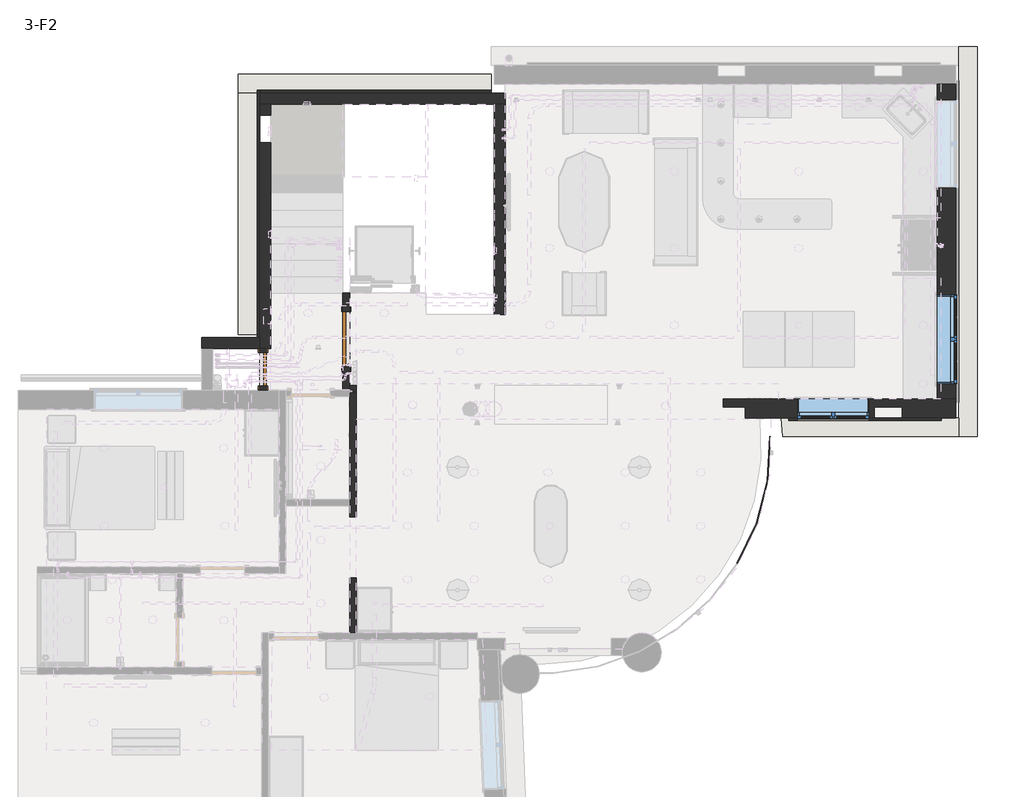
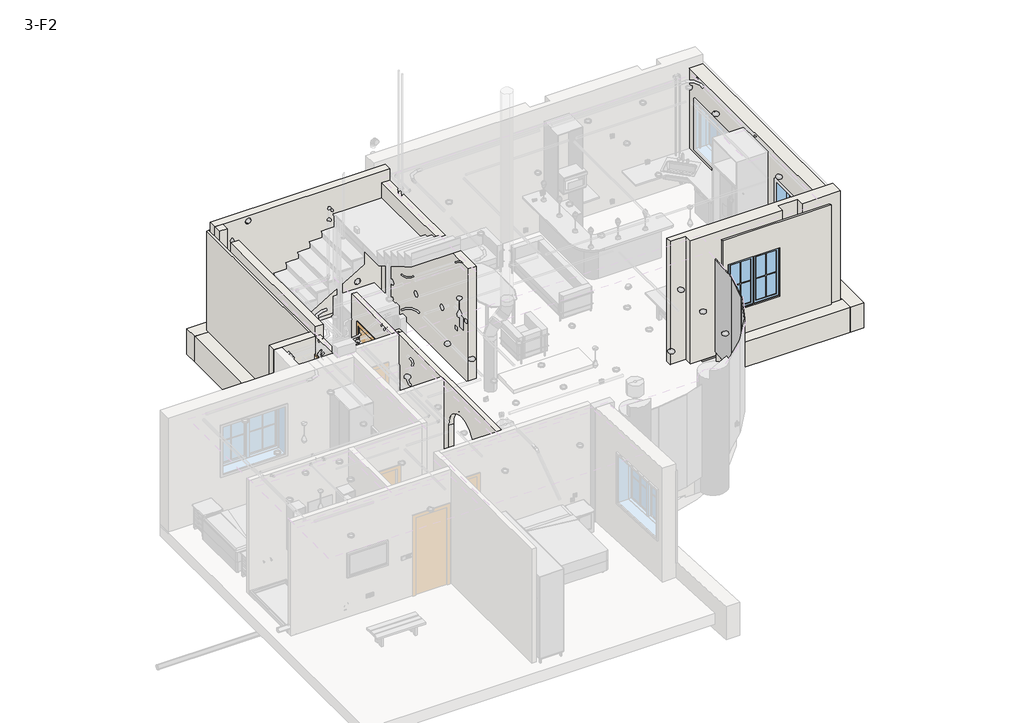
# One storey, part 2 of 12: 19 walls, 3 plates, 2 doors, 2 windows.
"""IFC4 building model written with IfcOpenShell, lengths in millimetres."""

from ifc_helpers import new_model, si_unit, point, frame, frame_2d, origin, place, context, project, spatial, polyline, circle_curve, trimmed, segment, composite_curve, outline, extrude, faceted_brep, transform, mapped, element, save
from ifc_brep_helpers import plane_surface, revolved_surface, advanced_brep
from components import m_door_double_flush_panel_double_acting_1000_x_2400mm_1c2e4d77, m_single_flush_600x160mm_2bf126cd, system_panel_glazed_b81a04c8, system_panel_glazed_f5efb3f4, m_window_casement_double_1300_x_1300mm_cdc21af0, m_window_casement_double_1600_x_1300mm_8a1cf402

model = new_model("IFC4")

# Units and contexts
model_context = context("Model", 3, world=origin())
ifc_project = project(units=[si_unit("LENGTHUNIT", "METRE", prefix="MILLI")], contexts=[model_context])

# Site, building, storey
site = spatial("IfcSite", under=ifc_project)
building = spatial("IfcBuilding", under=site)
storey = spatial("IfcBuildingStorey", under=building, Name="3-F2", Elevation=6550.0)

# Doors
placement = place(None, origin())
m_door_double_flush_panel_double_acting_1000_x_2400mm_shape = m_door_double_flush_panel_double_acting_1000_x_2400mm_1c2e4d77(model_context)
element("IfcDoor", 1, ObjectType="M_Door-Double-Flush_Panel-Double-Acting : 1000 x 2400mm", at=placement, inside=storey, context=model_context, shape_type="MappedRepresentation", body=[
    mapped(m_door_double_flush_panel_double_acting_1000_x_2400mm_shape, transform((-3497.4765921, 4249.4560655, 6600.0), x_axis=(0.0, -1.0, 0.0), y_axis=(1.0, 0.0, 0.0), z_axis=(0.0, 0.0, 1.0))),
])
m_single_flush_600x160mm_shape = m_single_flush_600x160mm_2bf126cd(model_context)
element("IfcDoor", 2, ObjectType="M_Single-Flush : 600x160mm", at=placement, inside=storey, context=model_context, shape_type="MappedRepresentation", body=[
    mapped(m_single_flush_600x160mm_shape, transform((-4997.4765921, 3709.4560655, 7500.0), x_axis=(0.0, -1.0, 0.0), y_axis=(1.0, 0.0, 0.0), z_axis=(0.0, 0.0, 1.0))),
])

# Plates
system_panel_glazed_shape = system_panel_glazed_b81a04c8(model_context)
element("IfcPlate", 3, ObjectType="System Panel : Glazed", at=placement, inside=storey, context=model_context, shape_type="MappedRepresentation", body=[
    mapped(system_panel_glazed_shape, transform((4124.3887755, 2095.1912305, 6980.0), x_axis=(-0.05898021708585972, -0.9982591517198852, 0.0), y_axis=(0.9982591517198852, -0.05898021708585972, 0.0), z_axis=(0.0, 0.0, 1.0))),
])
system_panel_glazed_2_shape = system_panel_glazed_f5efb3f4(model_context)
element("IfcPlate", 4, ObjectType="System Panel : Glazed", at=placement, inside=storey, context=model_context, shape_type="MappedRepresentation", body=[
    mapped(system_panel_glazed_2_shape, transform((4000.2906443, 1308.720246, 6980.0), x_axis=(-0.251265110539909, -0.9679183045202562, 0.0), y_axis=(0.9679183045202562, -0.251265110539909, 0.0), z_axis=(0.0, 0.0, 1.0))),
])
element("IfcPlate", 5, ObjectType="System Panel : Glazed", at=placement, inside=storey, context=model_context, shape_type="MappedRepresentation", body=[
    mapped(system_panel_glazed_2_shape, transform((3726.1731795, 561.1932779, 6980.0), x_axis=(-0.43402855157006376, -0.9008991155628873, 0.0), y_axis=(0.9008991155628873, -0.43402855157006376, 0.0), z_axis=(0.0, 0.0, 1.0))),
])

# Walls
element("IfcWall", 6, ObjectType="34cm", at=placement, inside=storey, context=model_context, shape_type="Brep", body=[
    faceted_brep([(7512.5234079, 3170.7214801, 6550.0), (7172.5234079, 3170.7214801, 6550.0), (3312.3848417, 3170.7214801, 6550.0), (3312.3848417, 3170.7214801, 9900.0), (7512.5234079, 3170.7214801, 9900.0), (7512.5234079, 3170.7214801, 9650.0), (4619.7734079, 3170.7214801, 7670.0), (4619.7734079, 3170.7214801, 7730.0), (4559.7734079, 3170.7214801, 7730.0), (4559.7734079, 3170.7214801, 7670.0), (4519.7734079, 3170.7214801, 7670.0), (4519.7734079, 3170.7214801, 7730.0), (4459.7734079, 3170.7214801, 7730.0), (4459.7734079, 3170.7214801, 7670.0), (4202.5234079, 3170.7214801, 7670.0), (4202.5234079, 3170.7214801, 7730.0), (4142.5234079, 3170.7214801, 7730.0), (4142.5234079, 3170.7214801, 7670.0), (4102.5234079, 3170.7214801, 7670.0), (4102.5234079, 3170.7214801, 7730.0), (4042.5234079, 3170.7214801, 7730.0), (4042.5234079, 3170.7214801, 7670.0), (4012.5234079, 3170.7214801, 7670.0), (4012.5234079, 3170.7214801, 7730.0), (3952.5234079, 3170.7214801, 7730.0), (3952.5234079, 3170.7214801, 7670.0), (3912.5234079, 3170.7214801, 7670.0), (3912.5234079, 3170.7214801, 7730.0), (3852.5234079, 3170.7214801, 7730.0), (3852.5234079, 3170.7214801, 7670.0), (3812.5234079, 3170.7214801, 7670.0), (3812.5234079, 3170.7214801, 7730.0), (3752.5234079, 3170.7214801, 7730.0), (3752.5234079, 3170.7214801, 7670.0), (4082.5234079, 3170.7214801, 6970.0), (4082.5234079, 3170.7214801, 7030.0), (4022.5234079, 3170.7214801, 7030.0), (4022.5234079, 3170.7214801, 6970.0), (4648.0158093, 3170.7214801, 8960.0), (4648.0158093, 3170.7214801, 7660.0), (5948.0158093, 3170.7214801, 7660.0), (5948.0158093, 3170.7214801, 8960.0), (7512.5234079, 2830.7214801, 6550.0), (7512.5234079, 2830.7214801, 9900.0), (6542.5234079, 2830.7214801, 9900.0), (6542.5234079, 2830.7214801, 6550.0), (6042.5234079, 2830.7214801, 6550.0), (6042.5234079, 2830.7214801, 9900.0), (3712.5234079, 2830.7214801, 9900.0), (3712.5234079, 2830.7214801, 6550.0), (4648.0158093, 2830.7214801, 7660.0), (4648.0158093, 2830.7214801, 8960.0), (5948.0158093, 2830.7214801, 8960.0), (5948.0158093, 2830.7214801, 7660.0), (6542.5234079, 3030.6486583, 6550.0), (6042.5234079, 3030.6486583, 6550.0), (3712.5234079, 3030.6486583, 6550.0), (3312.3848417, 3030.6486583, 6550.0), (3312.3848417, 3030.6486583, 9900.0), (3712.5234079, 3030.6486583, 9900.0), (6042.5234079, 3030.6486583, 9900.0), (6542.5234079, 3030.6486583, 9900.0), (4619.7734079, 3120.7214801, 7670.0), (4559.7734079, 3120.7214801, 7670.0), (4559.7734079, 3120.7214801, 7730.0), (4619.7734079, 3120.7214801, 7730.0), (4519.7734079, 3120.7214801, 7670.0), (4459.7734079, 3120.7214801, 7670.0), (4459.7734079, 3120.7214801, 7730.0), (4519.7734079, 3120.7214801, 7730.0), (4202.5234079, 3120.7214801, 7670.0), (4142.5234079, 3120.7214801, 7670.0), (4142.5234079, 3120.7214801, 7730.0), (4202.5234079, 3120.7214801, 7730.0), (4102.5234079, 3120.7214801, 7670.0), (4042.5234079, 3120.7214801, 7670.0), (4042.5234079, 3120.7214801, 7730.0), (4102.5234079, 3120.7214801, 7730.0), (4012.5234079, 3120.7214801, 7670.0), (3952.5234079, 3120.7214801, 7670.0), (3952.5234079, 3120.7214801, 7730.0), (4012.5234079, 3120.7214801, 7730.0), (3912.5234079, 3120.7214801, 7670.0), (3852.5234079, 3120.7214801, 7670.0), (3852.5234079, 3120.7214801, 7730.0), (3912.5234079, 3120.7214801, 7730.0), (3812.5234079, 3120.7214801, 7670.0), (3752.5234079, 3120.7214801, 7670.0), (3752.5234079, 3120.7214801, 7730.0), (3812.5234079, 3120.7214801, 7730.0), (4082.5234079, 3120.7214801, 6970.0), (4022.5234079, 3120.7214801, 6970.0), (4022.5234079, 3120.7214801, 7030.0), (4082.5234079, 3120.7214801, 7030.0)], [[[0, 1, 2, 3, 4, 5], [6, 7, 8, 9], [10, 11, 12, 13], [14, 15, 16, 17], [18, 19, 20, 21], [22, 23, 24, 25], [26, 27, 28, 29], [30, 31, 32, 33], [34, 35, 36, 37], [38, 39, 40, 41]], [[42, 43, 44, 45]], [[46, 47, 48, 49], [50, 51, 52, 53]], [[2, 1, 0, 42, 45, 54, 55, 46, 49, 56, 57]], [[3, 2, 57, 58]], [[4, 3, 58, 59, 48, 47, 60, 61, 44, 43]], [[62, 63, 64, 65]], [[62, 65, 7, 6]], [[65, 64, 8, 7]], [[64, 63, 9, 8]], [[63, 62, 6, 9]], [[66, 67, 68, 69]], [[66, 69, 11, 10]], [[69, 68, 12, 11]], [[68, 67, 13, 12]], [[67, 66, 10, 13]], [[70, 71, 72, 73]], [[70, 73, 15, 14]], [[73, 72, 16, 15]], [[72, 71, 17, 16]], [[71, 70, 14, 17]], [[74, 75, 76, 77]], [[74, 77, 19, 18]], [[77, 76, 20, 19]], [[76, 75, 21, 20]], [[75, 74, 18, 21]], [[78, 79, 80, 81]], [[78, 81, 23, 22]], [[81, 80, 24, 23]], [[80, 79, 25, 24]], [[79, 78, 22, 25]], [[82, 83, 84, 85]], [[82, 85, 27, 26]], [[85, 84, 28, 27]], [[84, 83, 29, 28]], [[83, 82, 26, 29]], [[86, 87, 88, 89]], [[86, 89, 31, 30]], [[89, 88, 32, 31]], [[88, 87, 33, 32]], [[87, 86, 30, 33]], [[90, 91, 92, 93]], [[90, 93, 35, 34]], [[93, 92, 36, 35]], [[92, 91, 37, 36]], [[91, 90, 34, 37]], [[0, 5, 4, 43, 42]], [[38, 51, 50, 39]], [[39, 50, 53, 40]], [[40, 53, 52, 41]], [[51, 38, 41, 52]], [[61, 54, 45, 44]], [[55, 60, 47, 46]], [[60, 55, 54, 61]], [[59, 56, 49, 48]], [[56, 59, 58, 57]]]),
])
element("IfcWall", 7, ObjectType="34cm", at=placement, inside=storey, context=model_context, shape_type="SweptSolid", body=[
    extrude(outline(polyline([(8861.6620874, 6550.0), (3170.7214801, 6550.0), (3170.7214801, 9650.0), (8861.6620874, 9650.0), (8861.6620874, 6550.0)]), holes=[polyline([(6981.6620874, 8950.0), (6981.6620874, 7660.0), (8581.6620874, 7660.0), (8581.6620874, 8950.0), (6981.6620874, 8950.0)]), polyline([(3450.7214801, 8950.0), (3450.7214801, 7660.0), (5050.7214801, 7660.0), (5050.7214801, 8950.0), (3450.7214801, 8950.0)])]), frame((7172.5234079, 0.0, 0.0), z_axis=(1.0, 0.0, 0.0), x_axis=(0.0, 1.0, 0.0)), (0.0, 0.0, 1.0), 340.0),
])
element("IfcWall", 8, ObjectType="Generic - 200mm", at=placement, inside=storey, context=model_context, shape_type="AdvancedBrep", body=[
    advanced_brep(
    [(-627.4765921, 8701.6620874, 6550.0), (-5057.4765921, 8701.6620874, 6550.0), (-5057.4765921, 8701.6620874, 9900.0), (-627.4765921, 8701.6620874, 9900.0), (-5057.4765921, 8501.6620874, 6550.0), (-4857.4765921, 8501.6620874, 6550.0), (-827.4765921, 8501.6620874, 6550.0), (-627.4765921, 8501.6620874, 6550.0), (-627.4765921, 8501.6620874, 9600.0), (-627.4765921, 8501.6620874, 9900.0), (-4857.4765921, 8501.6620874, 9900.0), (-5057.4765921, 8501.6620874, 9900.0), (-4152.4765921, 8501.6620874, 9760.5263158), (-4262.4765921, 8501.6620874, 9760.5263158), (-1387.4765921, 8501.6620874, 7170.4545455), (-1497.4765921, 8501.6620874, 7170.4545455), (-4262.4765921, 8539.7620874, 9760.5263158), (-4152.4765921, 8539.7620874, 9760.5263158), (-1497.4765921, 8539.7620874, 7170.4545455), (-1387.4765921, 8539.7620874, 7170.4545455)],
    [
        (0, 1),
        (1, 2),
        (2, 3),
        (3, 0),
        (4, 5),
        (5, 6),
        (6, 7),
        (7, 8),
        (8, 9),
        (9, 10),
        (10, 11),
        (11, 4),
        (12, 13, circle_curve(frame((-4207.4765921, 8501.6620874, 9760.5263158), z_axis=(0.0, 1.0, 0.0), x_axis=(1.0, 0.0, 0.0)), 55.0)),
        (13, 12, circle_curve(frame((-4207.4765921, 8501.6620874, 9760.5263158), z_axis=(0.0, 1.0, 0.0), x_axis=(1.0, 0.0, 0.0)), 55.0)),
        (14, 15, circle_curve(frame((-1442.4765921, 8501.6620874, 7170.4545455), z_axis=(0.0, 1.0, 0.0), x_axis=(1.0, 0.0, 0.0)), 55.0)),
        (15, 14, circle_curve(frame((-1442.4765921, 8501.6620874, 7170.4545455), z_axis=(0.0, 1.0, 0.0), x_axis=(1.0, 0.0, 0.0)), 55.0)),
        (0, 7),
        (4, 1),
        (2, 11),
        (9, 3),
        (16, 17, circle_curve(frame((-4207.4765921, 8539.7620874, 9760.5263158), z_axis=(0.0, -1.0, 0.0), x_axis=(1.0, 0.0, 0.0)), 55.0)),
        (17, 16, circle_curve(frame((-4207.4765921, 8539.7620874, 9760.5263158), z_axis=(0.0, -1.0, 0.0), x_axis=(1.0, 0.0, 0.0)), 55.0)),
        (16, 13),
        (12, 17),
        (18, 19, circle_curve(frame((-1442.4765921, 8539.7620874, 7170.4545455), z_axis=(0.0, -1.0, 0.0), x_axis=(1.0, 0.0, 0.0)), 55.0)),
        (19, 18, circle_curve(frame((-1442.4765921, 8539.7620874, 7170.4545455), z_axis=(0.0, -1.0, 0.0), x_axis=(1.0, 0.0, 0.0)), 55.0)),
        (18, 15),
        (14, 19),
    ],
    [
        plane_surface(frame((-262.1225101, 8701.6620874, 6550.0), z_axis=(0.0, 1.0, 0.0), x_axis=(-1.0, 0.0, 0.0))),
        plane_surface(frame((-262.1225101, 8501.6620874, 6550.0), z_axis=(0.0, -1.0, 0.0), x_axis=(1.0, 0.0, 0.0))),
        plane_surface(frame((-727.4765921, 8701.6620874, 6550.0), z_axis=(0.0, 0.0, -1.0), x_axis=(0.0, -1.0, 0.0))),
        plane_surface(frame((-4957.4765921, 8701.6620874, 9900.0), z_axis=(0.0, 0.0, 1.0), x_axis=(0.0, -1.0, 0.0))),
        plane_surface(frame((-5057.4765921, 8301.6620874, 6550.0), z_axis=(-1.0, 0.0, 0.0), x_axis=(0.0, -1.0, 0.0))),
        plane_surface(frame((-4152.4765921, 8539.7620874, 9760.5263158), z_axis=(0.0, -1.0, 0.0), x_axis=(0.0, 0.0, -1.0))),
        revolved_surface(polyline([(-4152.4765921, 8501.6620874, 9760.5263158), (-4152.4765921, 8539.7620874, 9760.5263158)]), (-4207.4765921, 8539.7620874, 9760.5263158), (0.0, -1.0, 0.0)),
        plane_surface(frame((-1387.4765921, 8539.7620874, 7170.4545455), z_axis=(0.0, -1.0, 0.0), x_axis=(0.0, 0.0, -1.0))),
        revolved_surface(polyline([(-1387.4765921, 8501.6620874, 7170.4545455), (-1387.4765921, 8539.7620874, 7170.4545455)]), (-1442.4765921, 8539.7620874, 7170.4545455), (0.0, -1.0, 0.0)),
        plane_surface(frame((-627.4765921, 8101.6620874, 6550.0), z_axis=(1.0, 0.0, 0.0), x_axis=(0.0, 1.0, 0.0))),
    ],
    [
        (0, [[1, 2, 3, 4]]),
        (1, [[5, 6, 7, 8, 9, 10, 11, 12], [13, 14], [15, 16]]),
        (2, [[-1, 17, -7, -6, -5, 18]]),
        (3, [[-3, 19, -11, -10, 20]]),
        (4, [[-2, -18, -12, -19]]),
        (5, [[21, 22]]),
        (6, [[-21, 23, -13, 24]]),
        (6, [[-22, -24, -14, -23]]),
        (7, [[25, 26]]),
        (8, [[-25, 27, -15, 28]]),
        (8, [[-26, -28, -16, -27]]),
        (9, [[-4, -20, -9, -8, -17]]),
    ],
),
])
element("IfcWall", 9, ObjectType="Generic - 200mm", at=placement, inside=storey, context=model_context, shape_type="SweptSolid", body=[
    extrude(outline(polyline([(-5057.4765921, 8301.6620874), (-5057.4765921, 8501.6620874), (-4857.4765921, 8501.6620874), (-4857.4765921, 8301.6620874), (-5057.4765921, 8301.6620874)])), frame((0.0, 0.0, 6550.0), z_axis=(0.0, 0.0, 1.0), x_axis=(1.0, 0.0, 0.0)), (0.0, 0.0, 1.0), 3350.0),
])
element("IfcWall", 10, ObjectType="Generic - 200mm", at=placement, inside=storey, context=model_context, shape_type="Brep", body=[
    faceted_brep([(-5057.4765921, 4284.4560655, 6550.0), (-6107.4765921, 4284.4560655, 6550.0), (-6107.4765921, 4284.4560655, 9650.0), (-5107.4765921, 4284.4560655, 9650.0), (-5057.4765921, 4284.4560655, 9650.0), (-5057.4765921, 4284.4560655, 6980.0), (-6107.4765921, 4084.4560655, 6550.0), (-5907.4765921, 4084.4560655, 6550.0), (-5057.4765921, 4084.4560655, 6550.0), (-5057.4765921, 4084.4560655, 9650.0), (-5907.4765921, 4084.4560655, 9650.0), (-6107.4765921, 4084.4560655, 9650.0)], [[[0, 1, 2, 3, 4, 5]], [[6, 7, 8, 9, 10, 11]], [[1, 0, 8, 7, 6]], [[1, 6, 11, 2]], [[4, 3, 2, 11, 10, 9]], [[8, 0, 5, 4, 9]]]),
])
element("IfcWall", 11, ObjectType="Generic - 200mm", at=placement, inside=storey, context=model_context, shape_type="Brep", body=[
    faceted_brep([(-827.4765921, 8501.6620874, 6550.0), (-827.4765921, 4701.6620874, 6550.0), (-827.4765921, 4701.6620874, 9600.0), (-827.4765921, 8501.6620874, 9600.0), (-827.4765921, 5254.4560655, 7670.0), (-827.4765921, 5254.4560655, 7730.0), (-827.4765921, 5194.4560655, 7730.0), (-827.4765921, 5194.4560655, 7670.0), (-627.4765921, 4701.6620874, 6550.0), (-627.4765921, 8501.6620874, 6550.0), (-627.4765921, 8501.6620874, 9600.0), (-627.4765921, 4701.6620874, 9600.0), (-627.4765921, 6636.6620874, 7720.0), (-627.4765921, 6636.6620874, 7780.0), (-627.4765921, 6696.6620874, 7780.0), (-627.4765921, 6696.6620874, 7720.0), (-627.4765921, 6636.6620874, 6970.0), (-627.4765921, 6636.6620874, 7030.0), (-627.4765921, 6696.6620874, 7030.0), (-627.4765921, 6696.6620874, 6970.0), (-627.4765921, 6542.6620874, 6970.0), (-627.4765921, 6542.6620874, 7030.0), (-627.4765921, 6602.6620874, 7030.0), (-627.4765921, 6602.6620874, 6970.0), (-627.4765921, 5054.4560655, 7670.0), (-627.4765921, 5054.4560655, 7730.0), (-627.4765921, 5114.4560655, 7730.0), (-627.4765921, 5114.4560655, 7670.0), (-627.4765921, 5184.4560655, 7670.0), (-627.4765921, 5184.4560655, 7730.0), (-627.4765921, 5244.4560655, 7730.0), (-627.4765921, 5244.4560655, 7670.0), (-627.4765921, 5268.1878228, 7670.0), (-627.4765921, 5268.1878228, 7730.0), (-627.4765921, 5328.1878228, 7730.0), (-627.4765921, 5328.1878228, 7670.0), (-677.4765921, 6636.6620874, 7720.0), (-677.4765921, 6696.6620874, 7720.0), (-677.4765921, 6696.6620874, 7780.0), (-677.4765921, 6636.6620874, 7780.0), (-677.4765921, 6636.6620874, 6970.0), (-677.4765921, 6696.6620874, 6970.0), (-677.4765921, 6696.6620874, 7030.0), (-677.4765921, 6636.6620874, 7030.0), (-677.4765921, 6542.6620874, 6970.0), (-677.4765921, 6602.6620874, 6970.0), (-677.4765921, 6602.6620874, 7030.0), (-677.4765921, 6542.6620874, 7030.0), (-677.4765921, 5054.4560655, 7670.0), (-677.4765921, 5114.4560655, 7670.0), (-677.4765921, 5114.4560655, 7730.0), (-677.4765921, 5054.4560655, 7730.0), (-677.4765921, 5184.4560655, 7670.0), (-677.4765921, 5244.4560655, 7670.0), (-677.4765921, 5244.4560655, 7730.0), (-677.4765921, 5184.4560655, 7730.0), (-777.4765921, 5254.4560655, 7670.0), (-777.4765921, 5194.4560655, 7670.0), (-777.4765921, 5194.4560655, 7730.0), (-777.4765921, 5254.4560655, 7730.0), (-677.4765921, 5268.1878228, 7670.0), (-677.4765921, 5328.1878228, 7670.0), (-677.4765921, 5328.1878228, 7730.0), (-677.4765921, 5268.1878228, 7730.0)], [[[0, 1, 2, 3], [4, 5, 6, 7]], [[8, 9, 10, 11], [12, 13, 14, 15], [16, 17, 18, 19], [20, 21, 22, 23], [24, 25, 26, 27], [28, 29, 30, 31], [32, 33, 34, 35]], [[1, 0, 9, 8]], [[2, 1, 8, 11]], [[3, 2, 11, 10]], [[36, 37, 38, 39]], [[36, 39, 13, 12]], [[39, 38, 14, 13]], [[38, 37, 15, 14]], [[37, 36, 12, 15]], [[40, 41, 42, 43]], [[40, 43, 17, 16]], [[43, 42, 18, 17]], [[42, 41, 19, 18]], [[41, 40, 16, 19]], [[44, 45, 46, 47]], [[44, 47, 21, 20]], [[47, 46, 22, 21]], [[46, 45, 23, 22]], [[45, 44, 20, 23]], [[48, 49, 50, 51]], [[48, 51, 25, 24]], [[51, 50, 26, 25]], [[50, 49, 27, 26]], [[49, 48, 24, 27]], [[52, 53, 54, 55]], [[52, 55, 29, 28]], [[55, 54, 30, 29]], [[54, 53, 31, 30]], [[53, 52, 28, 31]], [[56, 57, 58, 59]], [[56, 59, 5, 4]], [[59, 58, 6, 5]], [[58, 57, 7, 6]], [[57, 56, 4, 7]], [[60, 61, 62, 63]], [[60, 63, 33, 32]], [[63, 62, 34, 33]], [[62, 61, 35, 34]], [[61, 60, 32, 35]], [[0, 3, 10, 9]]]),
])
element("IfcWall", 12, ObjectType="Generic - 200mm", at=placement, inside=storey, context=model_context, shape_type="AdvancedBrep", body=[
    advanced_brep(
    [(-5057.4765921, 7801.6620874, 6550.0), (-5057.4765921, 4284.4560655, 6550.0), (-5057.4765921, 4084.4560655, 6550.0), (-5057.4765921, 4084.4560655, 9650.0), (-5057.4765921, 4084.4560655, 9900.0), (-5057.4765921, 7801.6620874, 9900.0), (-4857.4765921, 4084.4560655, 6550.0), (-4857.4765921, 7801.6620874, 6550.0), (-4857.4765921, 7801.6620874, 9900.0), (-4857.4765921, 4084.4560655, 9900.0), (-4857.4765921, 5254.4560655, 7670.0), (-4857.4765921, 5254.4560655, 7730.0), (-4857.4765921, 5314.4560655, 7730.0), (-4857.4765921, 5314.4560655, 7670.0), (-4857.4765921, 5009.4560655, 6970.0), (-4857.4765921, 5009.4560655, 7030.0), (-4857.4765921, 5069.4560655, 7030.0), (-4857.4765921, 5069.4560655, 6970.0), (-4857.4765921, 6201.0955313, 9055.2631579), (-4857.4765921, 6091.0955313, 9055.2631579), (-4907.4765921, 5254.4560655, 7670.0), (-4907.4765921, 5314.4560655, 7670.0), (-4907.4765921, 5314.4560655, 7730.0), (-4907.4765921, 5254.4560655, 7730.0), (-4907.4765921, 5009.4560655, 6970.0), (-4907.4765921, 5069.4560655, 6970.0), (-4907.4765921, 5069.4560655, 7030.0), (-4907.4765921, 5009.4560655, 7030.0), (-4895.5765921, 6091.0955313, 9055.2631579), (-4895.5765921, 6201.0955313, 9055.2631579)],
    [
        (0, 1),
        (1, 2),
        (2, 3),
        (3, 4),
        (4, 5),
        (5, 0),
        (6, 7),
        (7, 8),
        (8, 9),
        (9, 6),
        (10, 11),
        (11, 12),
        (12, 13),
        (13, 10),
        (14, 15),
        (15, 16),
        (16, 17),
        (17, 14),
        (18, 19, circle_curve(frame((-4857.4765921, 6146.0955313, 9055.2631579), z_axis=(-1.0, 0.0, 0.0), x_axis=(0.0, 1.0, 0.0)), 55.0)),
        (19, 18, circle_curve(frame((-4857.4765921, 6146.0955313, 9055.2631579), z_axis=(-1.0, 0.0, 0.0), x_axis=(0.0, 1.0, 0.0)), 55.0)),
        (0, 7),
        (6, 2),
        (4, 9),
        (8, 5),
        (20, 21),
        (21, 22),
        (22, 23),
        (23, 20),
        (23, 11),
        (10, 20),
        (22, 12),
        (21, 13),
        (24, 25),
        (25, 26),
        (26, 27),
        (27, 24),
        (27, 15),
        (14, 24),
        (26, 16),
        (25, 17),
        (28, 29, circle_curve(frame((-4895.5765921, 6146.0955313, 9055.2631579), z_axis=(1.0, 0.0, 0.0), x_axis=(0.0, 1.0, 0.0)), 55.0)),
        (29, 28, circle_curve(frame((-4895.5765921, 6146.0955313, 9055.2631579), z_axis=(1.0, 0.0, 0.0), x_axis=(0.0, 1.0, 0.0)), 55.0)),
        (28, 19),
        (18, 29),
    ],
    [
        plane_surface(frame((-5057.4765921, 8301.6620874, 6550.0), z_axis=(-1.0, 0.0, 0.0), x_axis=(0.0, -1.0, 0.0))),
        plane_surface(frame((-4857.4765921, 8301.6620874, 6550.0), z_axis=(1.0, 0.0, 0.0), x_axis=(0.0, 1.0, 0.0))),
        plane_surface(frame((-5057.4765921, 7801.6620874, 6550.0), z_axis=(0.0, 0.0, -1.0), x_axis=(1.0, 0.0, 0.0))),
        plane_surface(frame((-5057.4765921, 4184.4560655, 9900.0), z_axis=(0.0, 0.0, 1.0), x_axis=(1.0, 0.0, 0.0))),
        plane_surface(frame((-5057.4765921, 7801.6620874, 9900.0), z_axis=(0.0, 1.0, 0.0), x_axis=(1.0, 0.0, 0.0))),
        plane_surface(frame((-4492.1225101, 4084.4560655, 6550.0), z_axis=(0.0, -1.0, 0.0), x_axis=(1.0, 0.0, 0.0))),
        plane_surface(frame((-4907.4765921, 5254.4560655, 7670.0), z_axis=(1.0, 0.0, 0.0), x_axis=(0.0, 0.0, 1.0))),
        plane_surface(frame((-4907.4765921, 5254.4560655, 7670.0), z_axis=(0.0, 1.0, 0.0), x_axis=(1.0, 0.0, 0.0))),
        plane_surface(frame((-4907.4765921, 5254.4560655, 7730.0), z_axis=(0.0, 0.0, -1.0), x_axis=(1.0, 0.0, 0.0))),
        plane_surface(frame((-4907.4765921, 5314.4560655, 7730.0), z_axis=(0.0, -1.0, 0.0), x_axis=(1.0, 0.0, 0.0))),
        plane_surface(frame((-4907.4765921, 5314.4560655, 7670.0), z_axis=(0.0, 0.0, 1.0), x_axis=(1.0, 0.0, 0.0))),
        plane_surface(frame((-4907.4765921, 5009.4560655, 6970.0), z_axis=(1.0, 0.0, 0.0), x_axis=(0.0, 0.0, 1.0))),
        plane_surface(frame((-4907.4765921, 5009.4560655, 6970.0), z_axis=(0.0, 1.0, 0.0), x_axis=(1.0, 0.0, 0.0))),
        plane_surface(frame((-4907.4765921, 5009.4560655, 7030.0), z_axis=(0.0, 0.0, -1.0), x_axis=(1.0, 0.0, 0.0))),
        plane_surface(frame((-4907.4765921, 5069.4560655, 7030.0), z_axis=(0.0, -1.0, 0.0), x_axis=(1.0, 0.0, 0.0))),
        plane_surface(frame((-4907.4765921, 5069.4560655, 6970.0), z_axis=(0.0, 0.0, 1.0), x_axis=(1.0, 0.0, 0.0))),
        plane_surface(frame((-4895.5765921, 6201.0955313, 9055.2631579), z_axis=(1.0, 0.0, 0.0), x_axis=(0.0, 0.0, -1.0))),
        revolved_surface(polyline([(-4857.4765921, 6201.0955313, 9055.2631579), (-4895.5765921, 6201.0955313, 9055.2631579)]), (-4895.5765921, 6146.0955313, 9055.2631579), (1.0, 0.0, 0.0)),
    ],
    [
        (0, [[1, 2, 3, 4, 5, 6]]),
        (1, [[7, 8, 9, 10], [11, 12, 13, 14], [15, 16, 17, 18], [19, 20]]),
        (2, [[-2, -1, 21, -7, 22]]),
        (3, [[-5, 23, -9, 24]]),
        (4, [[-6, -24, -8, -21]]),
        (5, [[-4, -3, -22, -10, -23]]),
        (6, [[25, 26, 27, 28]]),
        (7, [[-28, 29, -11, 30]]),
        (8, [[-27, 31, -12, -29]]),
        (9, [[-26, 32, -13, -31]]),
        (10, [[-25, -30, -14, -32]]),
        (11, [[33, 34, 35, 36]]),
        (12, [[-36, 37, -15, 38]]),
        (13, [[-35, 39, -16, -37]]),
        (14, [[-34, 40, -17, -39]]),
        (15, [[-33, -38, -18, -40]]),
        (16, [[41, 42]]),
        (17, [[-41, 43, -19, 44]]),
        (17, [[-42, -44, -20, -43]]),
    ],
),
])
element("IfcWall", 13, ObjectType="Generic -120mm", at=placement, inside=storey, context=model_context, shape_type="AdvancedBrep", body=[
    advanced_brep(
    [(-3437.6151583, 3292.6176449, 6550.0), (-3437.6151583, 3214.4560655, 6550.0), (-3437.6151583, 1360.1275048, 6550.0), (-3437.6151583, 1240.1275048, 6550.0), (-3437.6151583, 1040.1275048, 6550.0), (-3437.6151583, 1040.1275048, 8550.0), (-3437.6151583, -59.8724952, 8550.0), (-3437.6151583, -59.8724952, 6550.0), (-3437.6151583, -1057.1632352, 6550.0), (-3437.6151583, -1057.1632352, 9650.0), (-3437.6151583, 1240.1275048, 9650.0), (-3437.6151583, 1360.1275048, 9650.0), (-3437.6151583, 3214.4560655, 9650.0), (-3437.6151583, 3292.6176449, 9650.0), (-3437.6151583, 3107.6176449, 7670.0), (-3437.6151583, 3107.6176449, 7730.0), (-3437.6151583, 3047.6176449, 7730.0), (-3437.6151583, 3047.6176449, 7670.0), (-3437.6151583, 1350.1275048, 7670.0), (-3437.6151583, 1350.1275048, 7730.0), (-3437.6151583, 1290.1275048, 7730.0), (-3437.6151583, 1290.1275048, 7670.0), (-3317.6151583, 1040.1275048, 6550.0), (-3317.6151583, 3292.6176449, 6550.0), (-3317.6151583, 3292.6176449, 9650.0), (-3317.6151583, -1057.1632352, 9650.0), (-3317.6151583, -1057.1632352, 6550.0), (-3317.6151583, -59.8724952, 6550.0), (-3317.6151583, -59.8724952, 8550.0), (-3317.6151583, 1040.1275048, 8550.0), (-3317.6151583, -529.8724952, 6970.0), (-3317.6151583, -529.8724952, 7030.0), (-3317.6151583, -469.8724952, 7030.0), (-3317.6151583, -469.8724952, 6970.0), (-3317.6151583, 1770.1275048, 6970.0), (-3317.6151583, 1770.1275048, 7030.0), (-3317.6151583, 1830.1275048, 7030.0), (-3317.6151583, 1830.1275048, 6970.0), (-3317.6151583, 1660.1275048, 7670.0), (-3317.6151583, 1660.1275048, 7730.0), (-3317.6151583, 1720.1275048, 7730.0), (-3317.6151583, 1720.1275048, 7670.0), (-3317.6151583, 1290.1275048, 7670.0), (-3317.6151583, 1290.1275048, 7730.0), (-3317.6151583, 1350.1275048, 7730.0), (-3317.6151583, 1350.1275048, 7670.0), (-3377.6151583, 3292.6176449, 6550.0), (-3377.6151583, 3292.6176449, 9650.0), (-3387.6151583, 3107.6176449, 7670.0), (-3387.6151583, 3047.6176449, 7670.0), (-3387.6151583, 3047.6176449, 7730.0), (-3387.6151583, 3107.6176449, 7730.0), (-3367.6151583, -529.8724952, 6970.0), (-3367.6151583, -469.8724952, 6970.0), (-3367.6151583, -469.8724952, 7030.0), (-3367.6151583, -529.8724952, 7030.0), (-3367.6151583, 1770.1275048, 6970.0), (-3367.6151583, 1830.1275048, 6970.0), (-3367.6151583, 1830.1275048, 7030.0), (-3367.6151583, 1770.1275048, 7030.0), (-3367.6151583, 1660.1275048, 7670.0), (-3367.6151583, 1720.1275048, 7670.0), (-3367.6151583, 1720.1275048, 7730.0), (-3367.6151583, 1660.1275048, 7730.0), (-3387.6151583, 1350.1275048, 7670.0), (-3387.6151583, 1290.1275048, 7670.0), (-3387.6151583, 1290.1275048, 7730.0), (-3387.6151583, 1350.1275048, 7730.0), (-3367.6151583, 1290.1275048, 7670.0), (-3367.6151583, 1350.1275048, 7670.0), (-3367.6151583, 1350.1275048, 7730.0), (-3367.6151583, 1290.1275048, 7730.0)],
    [
        (0, 1),
        (1, 2),
        (2, 3),
        (3, 4),
        (4, 5),
        (5, 6, circle_curve(frame((-3437.6151583, 490.1275048, 8550.0), z_axis=(1.0, 0.0, 0.0), x_axis=(0.0, 1.0, 0.0)), 550.0)),
        (6, 7),
        (7, 8),
        (8, 9),
        (9, 10),
        (10, 11),
        (11, 12),
        (12, 13),
        (13, 0),
        (14, 15),
        (15, 16),
        (16, 17),
        (17, 14),
        (18, 19),
        (19, 20),
        (20, 21),
        (21, 18),
        (22, 23),
        (23, 24),
        (24, 25),
        (25, 26),
        (26, 27),
        (27, 28),
        (28, 29, circle_curve(frame((-3317.6151583, 490.1275048, 8550.0), z_axis=(-1.0, 0.0, 0.0), x_axis=(0.0, 1.0, 0.0)), 550.0)),
        (29, 22),
        (30, 31),
        (31, 32),
        (32, 33),
        (33, 30),
        (34, 35),
        (35, 36),
        (36, 37),
        (37, 34),
        (38, 39),
        (39, 40),
        (40, 41),
        (41, 38),
        (42, 43),
        (43, 44),
        (44, 45),
        (45, 42),
        (8, 26),
        (25, 9),
        (0, 46),
        (46, 23),
        (22, 4),
        (24, 47),
        (47, 13),
        (29, 5),
        (28, 6),
        (27, 7),
        (48, 49),
        (49, 50),
        (50, 51),
        (51, 48),
        (51, 15),
        (14, 48),
        (50, 16),
        (49, 17),
        (52, 53),
        (53, 54),
        (54, 55),
        (55, 52),
        (55, 31),
        (30, 52),
        (54, 32),
        (53, 33),
        (56, 57),
        (57, 58),
        (58, 59),
        (59, 56),
        (59, 35),
        (34, 56),
        (58, 36),
        (57, 37),
        (60, 61),
        (61, 62),
        (62, 63),
        (63, 60),
        (63, 39),
        (38, 60),
        (62, 40),
        (61, 41),
        (64, 65),
        (65, 66),
        (66, 67),
        (67, 64),
        (67, 19),
        (18, 64),
        (66, 20),
        (65, 21),
        (68, 69),
        (69, 70),
        (70, 71),
        (71, 68),
        (71, 43),
        (42, 68),
        (70, 44),
        (69, 45),
    ],
    [
        plane_surface(frame((-3437.6151583, 3352.6176449, 6550.0), z_axis=(-1.0, 0.0, 0.0), x_axis=(0.0, -1.0, 0.0))),
        plane_surface(frame((-3317.6151583, 3352.6176449, 6550.0), z_axis=(1.0, 0.0, 0.0), x_axis=(0.0, 1.0, 0.0))),
        plane_surface(frame((-5109.7814219, -1057.1632352, 6550.0), z_axis=(0.0, -1.0, 0.0), x_axis=(-1.0, 0.0, 0.0))),
        plane_surface(frame((-3437.6151583, 3352.6176449, 6550.0), z_axis=(0.0, 0.0, -1.0), x_axis=(1.0, 0.0, 0.0))),
        plane_surface(frame((-3437.6151583, -1117.1632352, 9650.0), z_axis=(0.0, 0.0, 1.0), x_axis=(1.0, 0.0, 0.0))),
        plane_surface(frame((-3437.6151583, 1040.1275048, 6550.0), z_axis=(0.0, -1.0, 0.0), x_axis=(1.0, 0.0, 0.0))),
        revolved_surface(polyline([(-3317.6151583, 1040.1275048, 8550.0), (-3437.6151583, 1040.1275048, 8550.0)]), (-3317.6151583, 490.1275048, 8550.0), (1.0, 0.0, 0.0)),
        plane_surface(frame((-3437.6151583, -59.8724952, 8550.0), z_axis=(0.0, 1.0, 0.0), x_axis=(1.0, 0.0, 0.0))),
        plane_surface(frame((-3437.6151583, -59.8724952, 6550.0), z_axis=(0.0, 0.0, -1.0), x_axis=(1.0, 0.0, 0.0))),
        plane_surface(frame((-3387.6151583, 3107.6176449, 7670.0), z_axis=(-1.0, 0.0, 0.0), x_axis=(0.0, 0.0, 1.0))),
        plane_surface(frame((-3387.6151583, 3107.6176449, 7670.0), z_axis=(0.0, -1.0, 0.0), x_axis=(-1.0, 0.0, 0.0))),
        plane_surface(frame((-3387.6151583, 3107.6176449, 7730.0), z_axis=(0.0, 0.0, -1.0), x_axis=(-1.0, 0.0, 0.0))),
        plane_surface(frame((-3387.6151583, 3047.6176449, 7730.0), z_axis=(0.0, 1.0, 0.0), x_axis=(-1.0, 0.0, 0.0))),
        plane_surface(frame((-3387.6151583, 3047.6176449, 7670.0), z_axis=(0.0, 0.0, 1.0), x_axis=(-1.0, 0.0, 0.0))),
        plane_surface(frame((-3367.6151583, -529.8724952, 6970.0), z_axis=(1.0, 0.0, 0.0), x_axis=(0.0, 0.0, 1.0))),
        plane_surface(frame((-3367.6151583, -529.8724952, 6970.0), z_axis=(0.0, 1.0, 0.0), x_axis=(1.0, 0.0, 0.0))),
        plane_surface(frame((-3367.6151583, -529.8724952, 7030.0), z_axis=(0.0, 0.0, -1.0), x_axis=(1.0, 0.0, 0.0))),
        plane_surface(frame((-3367.6151583, -469.8724952, 7030.0), z_axis=(0.0, -1.0, 0.0), x_axis=(1.0, 0.0, 0.0))),
        plane_surface(frame((-3367.6151583, -469.8724952, 6970.0), z_axis=(0.0, 0.0, 1.0), x_axis=(1.0, 0.0, 0.0))),
        plane_surface(frame((-3367.6151583, 1770.1275048, 6970.0), z_axis=(1.0, 0.0, 0.0), x_axis=(0.0, 0.0, 1.0))),
        plane_surface(frame((-3367.6151583, 1770.1275048, 6970.0), z_axis=(0.0, 1.0, 0.0), x_axis=(1.0, 0.0, 0.0))),
        plane_surface(frame((-3367.6151583, 1770.1275048, 7030.0), z_axis=(0.0, 0.0, -1.0), x_axis=(1.0, 0.0, 0.0))),
        plane_surface(frame((-3367.6151583, 1830.1275048, 7030.0), z_axis=(0.0, -1.0, 0.0), x_axis=(1.0, 0.0, 0.0))),
        plane_surface(frame((-3367.6151583, 1830.1275048, 6970.0), z_axis=(0.0, 0.0, 1.0), x_axis=(1.0, 0.0, 0.0))),
        plane_surface(frame((-3367.6151583, 1660.1275048, 7670.0), z_axis=(1.0, 0.0, 0.0), x_axis=(0.0, 0.0, 1.0))),
        plane_surface(frame((-3367.6151583, 1660.1275048, 7670.0), z_axis=(0.0, 1.0, 0.0), x_axis=(1.0, 0.0, 0.0))),
        plane_surface(frame((-3367.6151583, 1660.1275048, 7730.0), z_axis=(0.0, 0.0, -1.0), x_axis=(1.0, 0.0, 0.0))),
        plane_surface(frame((-3367.6151583, 1720.1275048, 7730.0), z_axis=(0.0, -1.0, 0.0), x_axis=(1.0, 0.0, 0.0))),
        plane_surface(frame((-3367.6151583, 1720.1275048, 7670.0), z_axis=(0.0, 0.0, 1.0), x_axis=(1.0, 0.0, 0.0))),
        plane_surface(frame((-3387.6151583, 1350.1275048, 7670.0), z_axis=(-1.0, 0.0, 0.0), x_axis=(0.0, 0.0, 1.0))),
        plane_surface(frame((-3387.6151583, 1350.1275048, 7670.0), z_axis=(0.0, -1.0, 0.0), x_axis=(-1.0, 0.0, 0.0))),
        plane_surface(frame((-3387.6151583, 1350.1275048, 7730.0), z_axis=(0.0, 0.0, -1.0), x_axis=(-1.0, 0.0, 0.0))),
        plane_surface(frame((-3387.6151583, 1290.1275048, 7730.0), z_axis=(0.0, 1.0, 0.0), x_axis=(-1.0, 0.0, 0.0))),
        plane_surface(frame((-3387.6151583, 1290.1275048, 7670.0), z_axis=(0.0, 0.0, 1.0), x_axis=(-1.0, 0.0, 0.0))),
        plane_surface(frame((-3367.6151583, 1290.1275048, 7670.0), z_axis=(1.0, 0.0, 0.0), x_axis=(0.0, 0.0, 1.0))),
        plane_surface(frame((-3367.6151583, 1290.1275048, 7670.0), z_axis=(0.0, 1.0, 0.0), x_axis=(1.0, 0.0, 0.0))),
        plane_surface(frame((-3367.6151583, 1290.1275048, 7730.0), z_axis=(0.0, 0.0, -1.0), x_axis=(1.0, 0.0, 0.0))),
        plane_surface(frame((-3367.6151583, 1350.1275048, 7730.0), z_axis=(0.0, -1.0, 0.0), x_axis=(1.0, 0.0, 0.0))),
        plane_surface(frame((-3367.6151583, 1350.1275048, 7670.0), z_axis=(0.0, 0.0, 1.0), x_axis=(1.0, 0.0, 0.0))),
        plane_surface(frame((-3373.8201518, 3292.6176449, 6550.0), z_axis=(0.0, 1.0, 0.0), x_axis=(1.0, 0.0, 0.0))),
    ],
    [
        (0, [[1, 2, 3, 4, 5, 6, 7, 8, 9, 10, 11, 12, 13, 14], [15, 16, 17, 18], [19, 20, 21, 22]]),
        (1, [[23, 24, 25, 26, 27, 28, 29, 30], [31, 32, 33, 34], [35, 36, 37, 38], [39, 40, 41, 42], [43, 44, 45, 46]]),
        (2, [[-9, 47, -26, 48]]),
        (3, [[-4, -3, -2, -1, 49, 50, -23, 51]]),
        (4, [[-13, -12, -11, -10, -48, -25, 52, 53]]),
        (5, [[-5, -51, -30, 54]]),
        (6, [[-6, -54, -29, 55]]),
        (7, [[-7, -55, -28, 56]]),
        (8, [[-8, -56, -27, -47]]),
        (9, [[57, 58, 59, 60]]),
        (10, [[-60, 61, -15, 62]]),
        (11, [[-59, 63, -16, -61]]),
        (12, [[-58, 64, -17, -63]]),
        (13, [[-57, -62, -18, -64]]),
        (14, [[65, 66, 67, 68]]),
        (15, [[-68, 69, -31, 70]]),
        (16, [[-67, 71, -32, -69]]),
        (17, [[-66, 72, -33, -71]]),
        (18, [[-65, -70, -34, -72]]),
        (19, [[73, 74, 75, 76]]),
        (20, [[-76, 77, -35, 78]]),
        (21, [[-75, 79, -36, -77]]),
        (22, [[-74, 80, -37, -79]]),
        (23, [[-73, -78, -38, -80]]),
        (24, [[81, 82, 83, 84]]),
        (25, [[-84, 85, -39, 86]]),
        (26, [[-83, 87, -40, -85]]),
        (27, [[-82, 88, -41, -87]]),
        (28, [[-81, -86, -42, -88]]),
        (29, [[89, 90, 91, 92]]),
        (30, [[-92, 93, -19, 94]]),
        (31, [[-91, 95, -20, -93]]),
        (32, [[-90, 96, -21, -95]]),
        (33, [[-89, -94, -22, -96]]),
        (34, [[97, 98, 99, 100]]),
        (35, [[-100, 101, -43, 102]]),
        (36, [[-99, 103, -44, -101]]),
        (37, [[-98, 104, -45, -103]]),
        (38, [[-97, -102, -46, -104]]),
        (39, [[-14, -53, -52, -24, -50, -49]]),
    ],
),
])
element("IfcWall", 14, ObjectType="Generic -120mm", at=placement, inside=storey, context=model_context, shape_type="SweptSolid", body=[
    extrude(outline(polyline([(4084.4560655, 6550.0), (3326.4863231, 6550.0), (3326.4863231, 9650.0), (4084.4560655, 9650.0), (4084.4560655, 6550.0)]), holes=[polyline([(3409.4560655, 7500.0), (4009.4560655, 7500.0), (4009.4560655, 9100.0), (3409.4560655, 9100.0), (3409.4560655, 7500.0)])]), frame((-5057.4765921, 0.0, 0.0), z_axis=(1.0, 0.0, 0.0), x_axis=(0.0, 1.0, 0.0)), (0.0, 0.0, 1.0), 120.0),
])
element("IfcWall", 15, ObjectType="Generic -120mm", at=placement, inside=storey, context=model_context, shape_type="Brep", body=[
    faceted_brep([(-3557.4765921, 5084.4560655, 6550.0), (-3557.4765921, 3334.4560655, 6550.0), (-3557.4765921, 3334.4560655, 9650.0), (-3557.4765921, 5084.4560655, 9650.0), (-3557.4765921, 3749.4560655, 9000.0), (-3557.4765921, 3749.4560655, 6600.0), (-3557.4765921, 4749.4560655, 6600.0), (-3557.4765921, 4749.4560655, 9000.0), (-3437.4765921, 3334.4560655, 6550.0), (-3437.4765921, 3412.6176449, 6550.0), (-3437.4765921, 5084.4560655, 6550.0), (-3437.4765921, 5084.4560655, 8550.0), (-3437.4765921, 5084.4560655, 9650.0), (-3437.4765921, 3412.6176449, 9650.0), (-3437.4765921, 3334.4560655, 9650.0), (-3437.4765921, 3749.4560655, 6600.0), (-3437.4765921, 3749.4560655, 9000.0), (-3437.4765921, 4749.4560655, 9000.0), (-3437.4765921, 4749.4560655, 6600.0)], [[[0, 1, 2, 3], [4, 5, 6, 7]], [[8, 9, 10, 11, 12, 13, 14], [15, 16, 17, 18]], [[1, 0, 10, 9, 8]], [[3, 2, 14, 13, 12]], [[0, 3, 12, 11, 10]], [[2, 1, 8, 14]], [[15, 5, 4, 16]], [[16, 4, 7, 17]], [[5, 15, 18, 6]], [[6, 18, 17, 7]]]),
])
element("IfcWall", 16, ObjectType="Generic -120mm", at=placement, inside=storey, context=model_context, shape_type="SweptSolid", body=[
    extrude(outline(polyline([(-3437.6151583, 3412.6176449), (-3317.6151583, 3412.6176449), (-3317.6151583, 3292.6176449), (-3377.6151583, 3292.6176449), (-3377.6151583, 3334.4560655), (-3437.6151583, 3334.4560655), (-3437.6151583, 3412.6176449)])), frame((0.0, 0.0, 6550.0), z_axis=(0.0, 0.0, 1.0), x_axis=(1.0, 0.0, 0.0)), (0.0, 0.0, 1.0), 3100.0),
])
element("IfcWall", 17, ObjectType="Wall1", at=placement, inside=storey, context=model_context, shape_type="Brep", body=[
    faceted_brep([(7562.5234079, 9541.6620874, 6300.0), (7562.5234079, 9201.6620874, 6300.0), (7562.5234079, 2830.6486583, 6300.0), (7562.5234079, 2490.6486583, 6300.0), (7562.5234079, 2490.6486583, 6980.0), (7562.5234079, 2830.6486583, 6980.0), (7562.5234079, 9201.6620874, 6980.0), (7562.5234079, 9541.6620874, 6980.0), (7902.5234079, 9541.6620874, 6300.0), (7902.5234079, 9541.6620874, 6980.0), (7902.5234079, 2490.6486583, 6980.0), (7902.5234079, 2490.6486583, 6300.0)], [[[0, 1, 2, 3, 4, 5, 6, 7]], [[8, 9, 10, 11]], [[3, 2, 1, 0, 8, 11]], [[7, 6, 5, 4, 10, 9]], [[4, 3, 11, 10]], [[0, 7, 9, 8]]]),
])
element("IfcWall", 18, ObjectType="Wall1", at=placement, inside=storey, context=model_context, shape_type="SweptSolid", body=[
    extrude(outline(composite_curve([segment(polyline([(4362.8531501, 2830.6486583), (7562.5234079, 2830.6486583), (7562.5234079, 2490.6486583), (4388.286927, 2490.6486583)]), True, "CONTINUOUS"), segment(trimmed(circle_curve(frame_2d((41.375057, 2336.428223)), 4349.6467383), [point((4388.286927, 2490.6486583))], [point((4362.8531501, 2830.6486583))], True, "CARTESIAN"), True, "CONTINUOUS")], self_intersect=False)), frame((0.0, 0.0, 6300.0), z_axis=(0.0, 0.0, 1.0), x_axis=(1.0, 0.0, 0.0)), (0.0, 0.0, 1.0), 680.0),
])
element("IfcWall", 19, ObjectType="Wall1", at=placement, inside=storey, context=model_context, shape_type="Brep", body=[
    faceted_brep([(-5447.4765921, 8701.6620874, 6300.0), (-5107.4765921, 8701.6620874, 6300.0), (-877.4765921, 8701.6620874, 6300.0), (-877.4765921, 8701.6620874, 6980.0), (-5107.4765921, 8701.6620874, 6980.0), (-5447.4765921, 8701.6620874, 6980.0), (-5447.4765921, 9041.6620874, 6300.0), (-5447.4765921, 9041.6620874, 6980.0), (-877.4765921, 9041.6620874, 6980.0), (-877.4765921, 9041.6620874, 6300.0)], [[[0, 1, 2, 3, 4, 5]], [[6, 7, 8, 9]], [[2, 1, 0, 6, 9]], [[5, 4, 3, 8, 7]], [[0, 5, 7, 6]], [[3, 2, 9, 8]]]),
])
element("IfcWall", 20, ObjectType="Wall1", at=placement, inside=storey, context=model_context, shape_type="Brep", body=[
    faceted_brep([(-877.4765921, 9201.6620874, 3430.0), (-227.4765921, 9201.6620874, 3430.0), (-227.4765921, 9201.6620874, 6300.0), (-877.4765921, 9201.6620874, 6300.0), (-877.4765921, 9541.6620874, 3430.0), (-877.4765921, 9541.6620874, 6300.0), (-227.4765921, 9541.6620874, 6300.0), (-227.4765921, 9541.6620874, 3430.0), (-227.4765921, 9251.6620874, 3430.0), (-227.4765921, 9251.6620874, 6300.0)], [[[0, 1, 2, 3]], [[4, 5, 6, 7]], [[1, 0, 4, 7, 8]], [[2, 1, 8, 7, 6, 9]], [[3, 2, 9, 6, 5]], [[0, 3, 5, 4]]]),
])
element("IfcWall", 21, ObjectType="Wall1", at=placement, inside=storey, context=model_context, shape_type="SweptSolid", body=[
    extrude(outline(polyline([(-5107.4765921, 8701.6620874), (-5107.4765921, 4334.4560655), (-5447.4765921, 4334.4560655), (-5447.4765921, 8701.6620874), (-5107.4765921, 8701.6620874)])), frame((0.0, 0.0, 6300.0), z_axis=(0.0, 0.0, 1.0), x_axis=(1.0, 0.0, 0.0)), (0.0, 0.0, 1.0), 680.0),
])
element("IfcWall", 22, ObjectType="exterior stone walls", at=placement, inside=storey, context=model_context, shape_type="SweptSolid", body=[
    extrude(outline(polyline([(-5057.4765921, 8751.6620874), (-877.4765921, 8751.6620874), (-877.4765921, 8701.6620874), (-5057.4765921, 8701.6620874), (-5057.4765921, 8751.6620874)])), frame((0.0, 0.0, 6980.0), z_axis=(0.0, 0.0, 1.0), x_axis=(1.0, 0.0, 0.0)), (0.0, 0.0, 1.0), 2670.0),
])
element("IfcWall", 23, ObjectType="exterior stone walls", at=placement, inside=storey, context=model_context, shape_type="SweptSolid", body=[
    extrude(outline(polyline([(6980.0, 4497.7813491), (6980.0, 7245.5234079), (9650.0, 7245.5234079), (9650.0, 4497.7813491), (6980.0, 4497.7813491)]), holes=[polyline([(8960.0, 4648.0158093), (8960.0, 5948.0158093), (7660.0, 5948.0158093), (7660.0, 4648.0158093), (8960.0, 4648.0158093)])]), frame((0.0, 2780.6486583, 0.0), z_axis=(0.0, 1.0, 0.0), x_axis=(0.0, 0.0, 1.0)), (0.0, 0.0, 1.0), 50.0),
])
element("IfcWall", 24, ObjectType="exterior stone walls", at=placement, inside=storey, context=model_context, shape_type="Brep", body=[
    faceted_brep([(-5107.4765921, 8751.6620874, 6980.0), (-5107.4765921, 4284.4560655, 6980.0), (-5107.4765921, 4284.4560655, 9650.0), (-5107.4765921, 8751.6620874, 9650.0), (-5057.4765921, 8751.6620874, 6980.0), (-5057.4765921, 8751.6620874, 9650.0), (-5057.4765921, 8701.6620874, 9650.0), (-5057.4765921, 4284.4560655, 9650.0), (-5057.4765921, 4284.4560655, 6980.0), (-5057.4765921, 8701.6620874, 6980.0)], [[[0, 1, 2, 3]], [[4, 5, 6, 7, 8, 9]], [[1, 0, 4, 9, 8]], [[3, 2, 7, 6, 5]], [[2, 1, 8, 7]], [[0, 3, 5, 4]]]),
])

# Windows
m_window_casement_double_1300_x_1300mm_shape = m_window_casement_double_1300_x_1300mm_cdc21af0(model_context)
element("IfcWindow", 25, ObjectType="M_Window-Casement-Double : 1300 x 1300mm", at=placement, inside=storey, context=model_context, shape_type="MappedRepresentation", body=[
    mapped(m_window_casement_double_1300_x_1300mm_shape, transform((5298.0158093, 3000.7214801, 6760.0), x_axis=(-1.0, 0.0, 0.0), y_axis=(0.0, -1.0, 0.0), z_axis=(0.0, 0.0, 1.0))),
])
m_window_casement_double_1600_x_1300mm_shape = m_window_casement_double_1600_x_1300mm_8a1cf402(model_context)
element("IfcWindow", 26, ObjectType="M_Window-Casement-Double : 1600 x 1300mm", at=placement, inside=storey, context=model_context, shape_type="MappedRepresentation", body=[
    mapped(m_window_casement_double_1600_x_1300mm_shape, transform((7342.5234079, 4250.7214801, 6760.0), x_axis=(0.0, -1.0, 0.0), y_axis=(1.0, 0.0, 0.0), z_axis=(0.0, 0.0, 1.0))),
])

save(model, "model.ifc")
